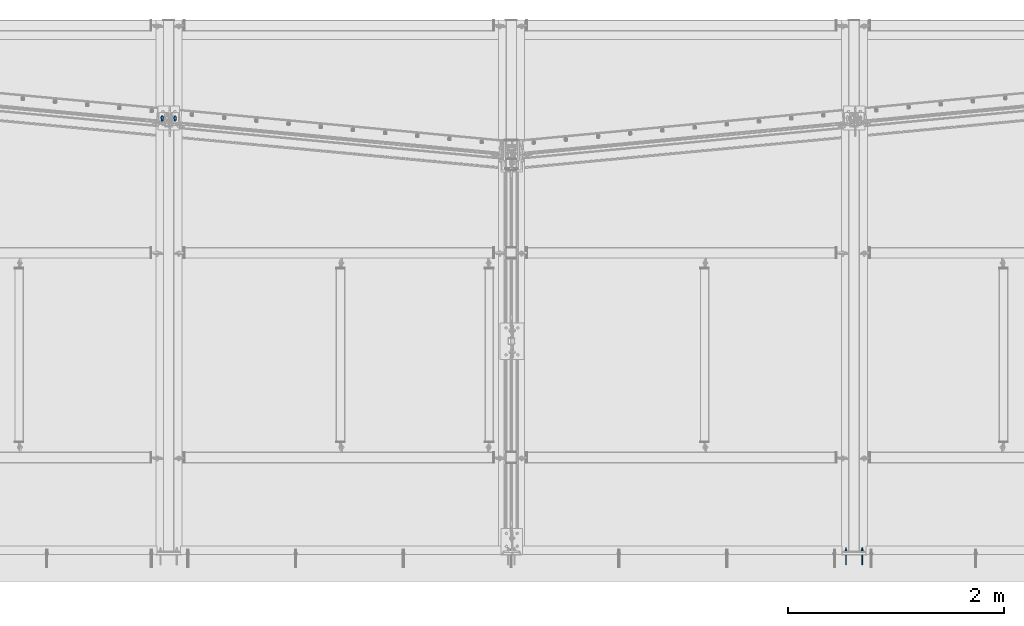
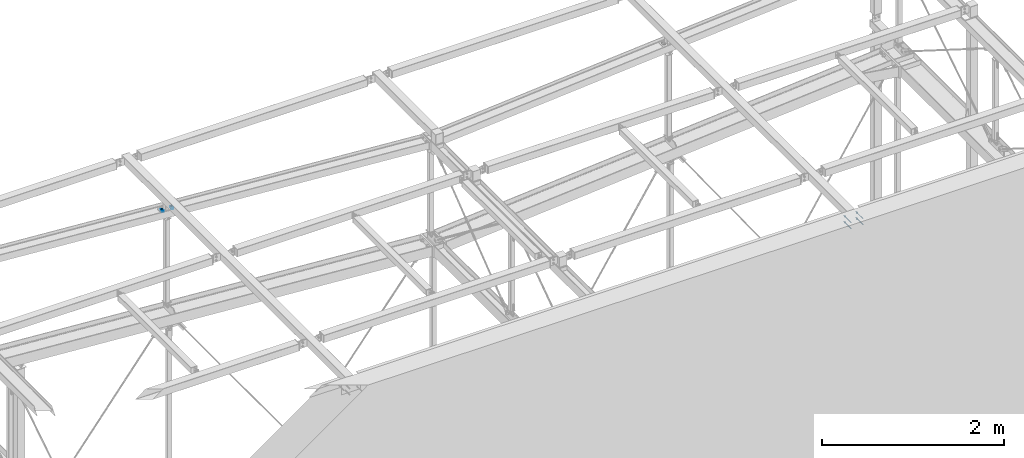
# One storey, part 222 of 271: 3 mechanical fasteners, 2 elements without a shape of their own.
"""IFC2X3 building model written with IfcOpenShell, lengths in millimetres."""

from ifc_helpers import new_model, si_unit, frame, frame_2d, origin_with_axes, origin_2d_with_axis, place, context, subcontext, project, spatial, polyline, circle_curve, parameter, trimmed, segment, composite_curve, circle, outline, extrude, source, transform, mapped, material, type_object, element, aggregate, save


model = new_model("IFC2X3")

# Units and contexts
model_context = context("Model", 3, precision=1e-05, world=origin_with_axes())
body_context = subcontext(model_context, "Body", "Model", "MODEL_VIEW")
ifc_project = project(units=[si_unit("LENGTHUNIT", "METRE", prefix="MILLI"), si_unit("AREAUNIT", "SQUARE_METRE"), si_unit("VOLUMEUNIT", "CUBIC_METRE"), si_unit("MASSUNIT", "GRAM", prefix="KILO"), si_unit("TIMEUNIT", "SECOND"), si_unit("PLANEANGLEUNIT", "RADIAN"), si_unit("SOLIDANGLEUNIT", "STERADIAN"), si_unit("THERMODYNAMICTEMPERATUREUNIT", "DEGREE_CELSIUS"), si_unit("LUMINOUSINTENSITYUNIT", "LUMEN")], contexts=[model_context])

# Site, building, storey
site_placement = place(None, origin_with_axes())
site = spatial("IfcSite", under=ifc_project, at=site_placement, Name="Undefined", CompositionType="ELEMENT")
building_placement = place(site_placement, origin_with_axes())
building = spatial("IfcBuilding", under=site, at=building_placement, Name="Undefined", CompositionType="ELEMENT")
storey_placement = place(building_placement, origin_with_axes())
storey = spatial("IfcBuildingStorey", under=building, at=storey_placement, Name="Undefined", CompositionType="ELEMENT", Elevation=0.0)

# Assembly, mechanical fasteners
assembly_1_placement = place(storey_placement, origin_with_axes())
assembly_1 = element("IfcElementAssembly", 1, at=assembly_1_placement, inside=storey, AssemblyPlace="NOTDEFINED", PredefinedType="RIGID_FRAME")
ifc_material = material(Name="Undefined")
mechanical_fastener_type = type_object("IfcMechanicalFastenerType", Name="Bolt assembly")
shared_shape_1 = source(origin_with_axes(), body_context, "Body", "SweptSolid", [
    extrude(circle(Radius=9.0, at=origin_2d_with_axis()), frame((0.0, -16.2000001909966, 0.0), z_axis=(0.0, 1.0, 0.0), x_axis=(1.0, 0.0, 0.0)), (0.0, 0.0, 1.0), 5.3),
    extrude(circle(Radius=9.0, at=origin_2d_with_axis()), frame((0.0, -10.1, 0.0), z_axis=(0.0, 1.0, 0.0), x_axis=(1.0, 0.0, 0.0)), (0.0, 0.0, 1.0), 10.1),
    extrude(outline(polyline([(13.85640646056, 0.0), (6.92820323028, 12.0000000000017), (-6.92820323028, 12.0000000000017), (-13.85640646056, 0.0), (-6.92820323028, -12.0000000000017), (6.92820323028, -12.0000000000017), (13.85640646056, 0.0)])), frame((0.0, -29.3000001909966, 0.0), z_axis=(0.0, 1.0, 0.0), x_axis=(1.0, 0.0, 0.0)), (0.0, 0.0, 1.0), 10.0),
    extrude(circle(Radius=8.0, at=origin_2d_with_axis()), frame((0.0, -19.3000001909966, 0.0), z_axis=(0.0, 1.0, 0.0), x_axis=(1.0, 0.0, 0.0)), (0.0, 0.0, 1.0), 45.0),
    extrude(circle(Radius=15.0, at=origin_2d_with_axis()), frame((0.0, -19.3000001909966, 0.0), z_axis=(0.0, 1.0, 0.0), x_axis=(1.0, 0.0, 0.0)), (0.0, 0.0, 1.0), 3.0),
    extrude(circle(Radius=15.0, at=origin_2d_with_axis()), frame((0.0, 0.0, 0.0), z_axis=(0.0, 1.0, 0.0), x_axis=(1.0, 0.0, 0.0)), (0.0, 0.0, 1.0), 3.0),
    extrude(outline(polyline([(13.85640646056, 0.0), (6.92820323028, 12.0000000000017), (-6.92820323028, 12.0000000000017), (-13.85640646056, 0.0), (-6.92820323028, -12.0000000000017), (6.92820323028, -12.0000000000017), (13.85640646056, 0.0)])), frame((0.0, 3.0, 0.0), z_axis=(0.0, 1.0, 0.0), x_axis=(1.0, 0.0, 0.0)), (0.0, 0.0, 1.0), 13.0),
])
mechanical_fastener_1_placement = place(assembly_1_placement, frame((3168.37568709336, 4080.32498425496, 20018.0), z_axis=(-1.0, 0.0, 1.38777878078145e-17), x_axis=(0.0, -1.0, 0.0)))
mechanical_fastener_1 = element("IfcMechanicalFastener", 2, at=mechanical_fastener_1_placement, type_object=mechanical_fastener_type, material=ifc_material, Name="Bolt assembly", NominalDiameter=16.0, NominalLength=45.0, context=body_context, shape_type="MappedRepresentation", body=[
    mapped(shared_shape_1, transform((30.0, 0.0, -60.0))),
    mapped(shared_shape_1, transform((30.0, 0.0, 60.0))),
])
shared_shape_2 = source(origin_with_axes(), body_context, "Body", "SweptSolid", [
    extrude(outline(composite_curve([segment(polyline([(-15.0, 9.0), (15.0, 9.0)]), True, "CONTINUOUS"), segment(trimmed(circle_curve(frame_2d((15.0, -1.59872115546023e-14), x_axis=(0.0, 1.0)), 9.0), [parameter(0.0)], [parameter(3.14159265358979)], False, "PARAMETER"), True, "CONTINUOUS"), segment(polyline([(15.0, -9.0), (-15.0, -9.0)]), True, "CONTINUOUS"), segment(trimmed(circle_curve(frame_2d((-15.0, 0.0), x_axis=(0.0, -1.0)), 9.0), [parameter(0.0)], [parameter(3.14159265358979)], False, "PARAMETER"), True, "DISCONTINUOUS")], self_intersect=False)), frame((0.0, -10.0, 0.0), z_axis=(0.0, 1.0, 0.0), x_axis=(1.0, 0.0, 0.0)), (0.0, 0.0, 1.0), 10.1),
])
mechanical_fastener_2_placement = place(assembly_1_placement, frame((3168.37568709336, 4045.32498425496, 20018.0), z_axis=(-1.0, 0.0, 1.38777878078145e-17), x_axis=(0.0, -1.0, 0.0)))
mechanical_fastener_2 = element("IfcMechanicalFastener", 3, at=mechanical_fastener_2_placement, type_object=mechanical_fastener_type, material=ifc_material, Name="Bolt assembly", NominalDiameter=16.0, NominalLength=10.0, context=body_context, shape_type="MappedRepresentation", body=[
    mapped(shared_shape_2, transform((0.0, 0.0, -60.0))),
    mapped(shared_shape_2, transform((0.0, 0.0, 60.0))),
])
aggregate(assembly_1, [mechanical_fastener_2, mechanical_fastener_1])

# Assembly, mechanical fastener
assembly_2_placement = place(storey_placement, origin_with_axes())
assembly_2 = element("IfcElementAssembly", 4, at=assembly_2_placement, inside=storey, AssemblyPlace="NOTDEFINED", PredefinedType="RIGID_FRAME")
shared_shape_3 = source(origin_with_axes(), body_context, "Body", "SweptSolid", [
    extrude(circle(Radius=7.0, at=origin_2d_with_axis()), frame((0.0, -12.0, 0.0), z_axis=(0.0, 1.0, 0.0), x_axis=(1.0, 0.0, 0.0)), (0.0, 0.0, 1.0), 12.1),
    extrude(outline(polyline([(5.80237031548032, 0.0), (2.90118515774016, 5.02500009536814), (-2.90118515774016, 5.02500009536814), (-5.80237031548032, 0.0), (-2.90118515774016, -5.02500009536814), (2.90118515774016, -5.02500009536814), (5.80237031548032, 0.0)])), frame((0.0, -128.0, 0.0), z_axis=(0.0, 1.0, 0.0), x_axis=(1.0, 0.0, 0.0)), (0.0, 0.0, 1.0), 116.0),
    extrude(circle(Radius=6.0, at=origin_2d_with_axis()), frame((0.0, -12.0, 0.0), z_axis=(0.0, 1.0, 0.0), x_axis=(1.0, 0.0, 0.0)), (0.0, 0.0, 1.0), 44.0),
    extrude(circle(Radius=12.0, at=origin_2d_with_axis()), frame((0.0, 0.0, 0.0), z_axis=(0.0, 1.0, 0.0), x_axis=(1.0, 0.0, 0.0)), (0.0, 0.0, 1.0), 2.5),
    extrude(outline(polyline([(10.96965511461, 0.0), (5.484827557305, 9.50000000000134), (-5.484827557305, 9.50000000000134), (-10.96965511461, 0.0), (-5.484827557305, -9.50000000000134), (5.484827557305, -9.50000000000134), (10.96965511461, 0.0)])), frame((0.0, 2.50000000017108, 0.0), z_axis=(0.0, 1.0, 0.0), x_axis=(1.0, 0.0, 0.0)), (0.0, 0.0, 1.0), 10.0),
])
mechanical_fastener_3_placement = place(assembly_2_placement, frame((9478.37568709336, 31.3249842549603, 20154.3499999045), z_axis=(0.0, 0.0, 1.0), x_axis=(1.0, 0.0, 0.0)))
mechanical_fastener_3 = element("IfcMechanicalFastener", 5, at=mechanical_fastener_3_placement, type_object=mechanical_fastener_type, material=ifc_material, Name="Bolt assembly", NominalDiameter=12.0, NominalLength=44.0, context=body_context, shape_type="MappedRepresentation", body=[
    mapped(shared_shape_3, transform((-25.0, 0.0, -90.0))),
    mapped(shared_shape_3, transform((-25.0, 0.0, -10.0))),
    mapped(shared_shape_3, transform((125.0, 0.0, -90.0))),
    mapped(shared_shape_3, transform((125.0, 0.0, -10.0))),
])
aggregate(assembly_2, [mechanical_fastener_3])

save(model, "model.ifc")
